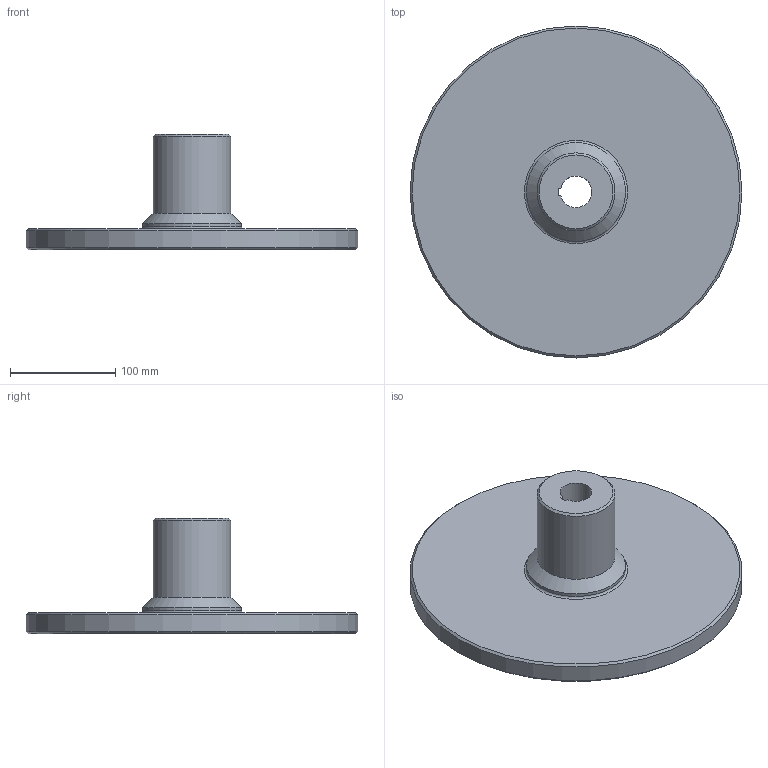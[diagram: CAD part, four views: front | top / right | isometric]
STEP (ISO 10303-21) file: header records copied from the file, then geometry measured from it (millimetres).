
FILE_DESCRIPTION(/* description */ (''),/* implementation_level */ '2;1');
FILE_NAME(/* name */ 'C:\Users\vlakrc01\Desktop\COUPLINGS\04 RKX STEP\RKMWD 20\76549.stp',/* time_stamp */ '2017-03-15T13:29:28+01:00',/* author */ ('vlakrc01'),/* organization */ (''),/* preprocessor_version */ 'ST-DEVELOPER v16.1',/* originating_system */ 'Autodesk Inventor 2016',/* authorisation */ '');
FILE_SCHEMA (('AUTOMOTIVE_DESIGN { 1 0 10303 214 3 1 1 }'));
Length unit declared in the file: millimetre
Products named in the file (1): 76549_Shrinkwrap_1
Bounding box: 315 x 315 x 110 mm (x, y, z)
Volume: 1887784.6 mm3; surface area: 202977 mm2
Topology: 1 solids, 3 shells, 25 faces, 55 edges, 35 vertices
Faces by surface type: cone 9, plane 8, cylinder 6, bspline 1, torus 1
Full cylindrical faces by diameter (mm): 70 x2, 74 x1, 94 x1, 315 x1
Entity records: 829 total; most frequent: CARTESIAN_POINT 284, DIRECTION 101, ORIENTED_EDGE 70, EDGE_LOOP 45, AXIS2_PLACEMENT_3D 45, EDGE_CURVE 35, VERTEX_POINT 30, STYLED_ITEM 26
